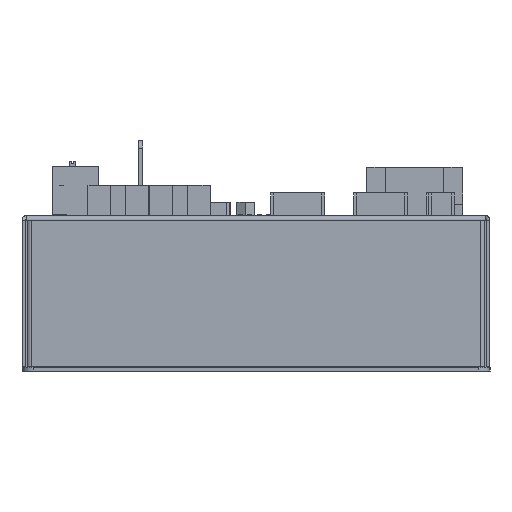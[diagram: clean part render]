
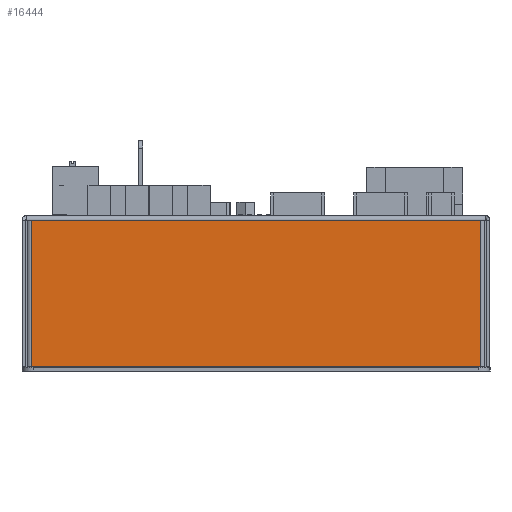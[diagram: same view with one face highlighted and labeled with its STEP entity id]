
A CAD part, left-side view. The second image highlights one B-rep face of the part: STEP entity #16444.
In plain terms, the highlighted planar face has unit normal (-1, 0, 0).
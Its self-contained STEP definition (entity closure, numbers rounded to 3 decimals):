
#240 = CARTESIAN_POINT ( 'NONE',  ( -105.5, -59.6, 0.2 ) ) ;
#1338 = FACE_OUTER_BOUND ( 'NONE', #11195, .T. ) ;
#2076 = CARTESIAN_POINT ( 'NONE',  ( -105.5, 59.6, 0.2 ) ) ;
#2609 = DIRECTION ( 'NONE',  ( 0., 0., 1. ) ) ;
#2770 = CARTESIAN_POINT ( 'NONE',  ( -105.5, -59.6, 0.2 ) ) ;
#2966 = LINE ( 'NONE', #2770, #9618 ) ;
#4051 = LINE ( 'NONE', #6686, #6944 ) ;
#4077 = VERTEX_POINT ( 'NONE', #20886 ) ;
#6612 = DIRECTION ( 'NONE',  ( 0., 0., -1. ) ) ;
#6683 = EDGE_CURVE ( 'NONE', #4077, #24031, #8208, .T. ) ;
#6686 = CARTESIAN_POINT ( 'NONE',  ( -105.5, 59.6, 39. ) ) ;
#6944 = VECTOR ( 'NONE', #6612, 1000. ) ;
#7726 = DIRECTION ( 'NONE',  ( 0., 1., 0. ) ) ;
#8208 = LINE ( 'NONE', #11137, #12555 ) ;
#8318 = PLANE ( 'NONE',  #16454 ) ;
#8558 = ORIENTED_EDGE ( 'NONE', *, *, #19825, .F. ) ;
#9278 = DIRECTION ( 'NONE',  ( 0., -1., 0. ) ) ;
#9618 = VECTOR ( 'NONE', #2609, 1000. ) ;
#10515 = ORIENTED_EDGE ( 'NONE', *, *, #15032, .T. ) ;
#10735 = DIRECTION ( 'NONE',  ( 1., 0., 0. ) ) ;
#10855 = EDGE_CURVE ( 'NONE', #4077, #18498, #4051, .T. ) ;
#11137 = CARTESIAN_POINT ( 'NONE',  ( -105.5, -62., 39. ) ) ;
#11195 = EDGE_LOOP ( 'NONE', ( #22851, #8558, #10515, #14759 ) ) ;
#12555 = VECTOR ( 'NONE', #9278, 1000. ) ;
#14323 = VERTEX_POINT ( 'NONE', #240 ) ;
#14759 = ORIENTED_EDGE ( 'NONE', *, *, #6683, .F. ) ;
#15032 = EDGE_CURVE ( 'NONE', #14323, #24031, #2966, .T. ) ;
#16247 = LINE ( 'NONE', #18818, #16841 ) ;
#16444 = ADVANCED_FACE ( 'NONE', ( #1338 ), #8318, .F. ) ;
#16454 = AXIS2_PLACEMENT_3D ( 'NONE', #21273, #10735, #21932 ) ;
#16841 = VECTOR ( 'NONE', #7726, 1000. ) ;
#18438 = CARTESIAN_POINT ( 'NONE',  ( -105.5, -59.6, 39. ) ) ;
#18498 = VERTEX_POINT ( 'NONE', #2076 ) ;
#18818 = CARTESIAN_POINT ( 'NONE',  ( -105.5, -62., 0.2 ) ) ;
#19825 = EDGE_CURVE ( 'NONE', #14323, #18498, #16247, .T. ) ;
#20886 = CARTESIAN_POINT ( 'NONE',  ( -105.5, 59.6, 39. ) ) ;
#21273 = CARTESIAN_POINT ( 'NONE',  ( -105.5, 0., 40.2 ) ) ;
#21932 = DIRECTION ( 'NONE',  ( 0., 0., 1. ) ) ;
#22851 = ORIENTED_EDGE ( 'NONE', *, *, #10855, .T. ) ;
#24031 = VERTEX_POINT ( 'NONE', #18438 ) ;
